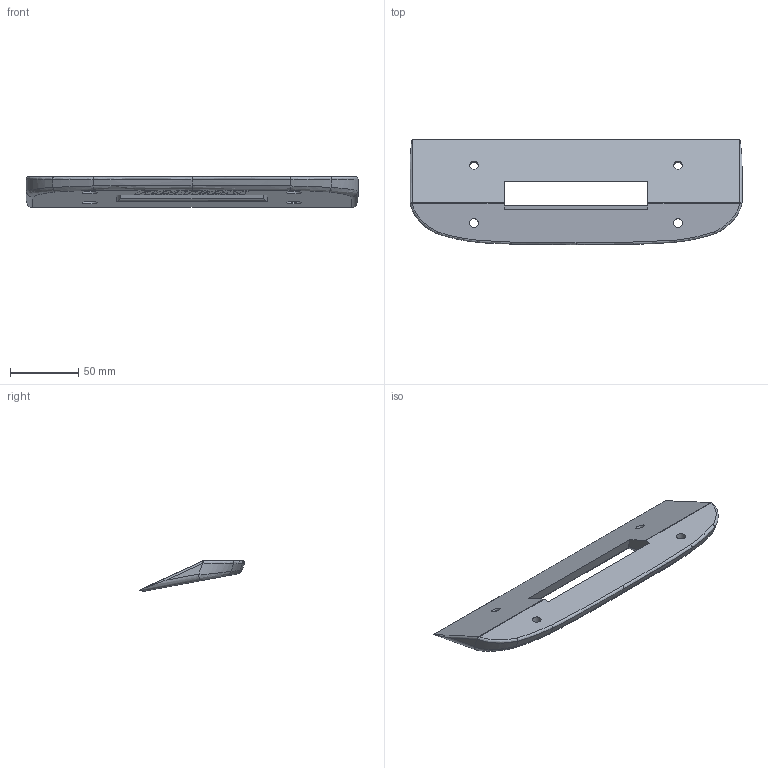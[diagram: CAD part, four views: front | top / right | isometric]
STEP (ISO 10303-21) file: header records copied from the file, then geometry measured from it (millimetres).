
FILE_DESCRIPTION(/* description */ (''),/* implementation_level */ '2;1');
FILE_NAME(/* name */ 'Achter Bumper V2.step',/* time_stamp */ '2024-07-22T11:53:13+02:00',/* author */ (''),/* organization */ (''),/* preprocessor_version */ 'ST-DEVELOPER v20',/* originating_system */ 'Autodesk Translation Framework v13.14.0.145',/* authorisation */ '');
FILE_SCHEMA (('AUTOMOTIVE_DESIGN { 1 0 10303 214 3 1 1 }'));
Length unit declared in the file: millimetre
Products named in the file (1): Achter Bumper V2
Bounding box: 242.62 x 76.88 x 22.22 mm (x, y, z)
Volume: 129663.7 mm3; surface area: 38100 mm2
Topology: 1 solids, 1 shells, 211 faces, 629 edges, 432 vertices
Faces by surface type: bspline 100, plane 92, cylinder 19
Full cylindrical faces by diameter (mm): 6.5 x4, 11 x4
Entity records: 11291 total; most frequent: CARTESIAN_POINT 6281, ORIENTED_EDGE 1258, DIRECTION 643, EDGE_CURVE 629, VERTEX_POINT 432, LINE 331, VECTOR 331, B_SPLINE_CURVE_WITH_KNOTS 254
